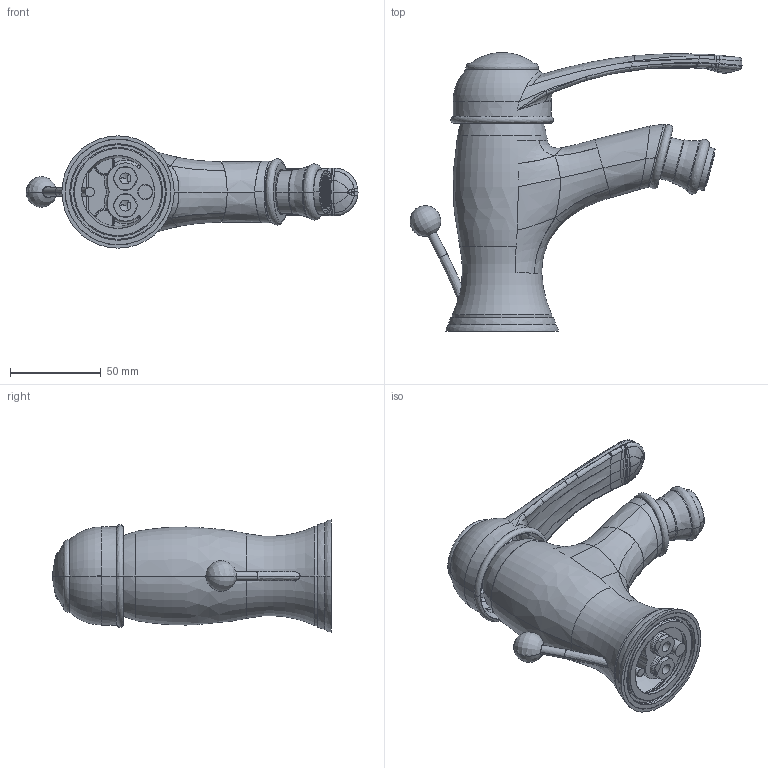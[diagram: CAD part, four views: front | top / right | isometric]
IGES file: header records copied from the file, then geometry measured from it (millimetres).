
Start section:  PTC IGES file: 29103.igs
Global section: file name: 29103.igs; native system: Creo Parametric by PTC Inc.; preprocessor: 2022014; author: carloff; organization: Unknown; date: 20260515.152803; units: millimetre
Bounding box: 182.69 x 153.41 x 61.8 mm (x, y, z)
Surface area: 127684.4 mm2 (no closed solid volume)
Topology: 0 solids, 0 shells, 4576 faces, 28978 edges, 28956 vertices
Faces by surface type: bspline 3215, revolution 1361
